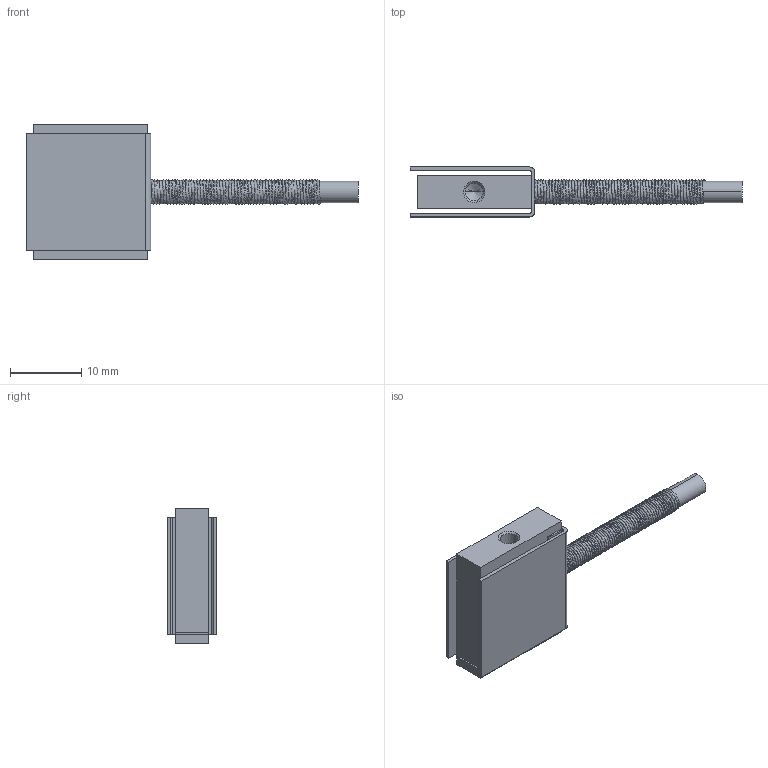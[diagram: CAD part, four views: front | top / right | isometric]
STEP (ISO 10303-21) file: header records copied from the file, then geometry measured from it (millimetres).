
FILE_DESCRIPTION (( 'STEP AP203' ), '1' );
FILE_NAME ('BMF200-10~45N.STEP', '2025-02-18T12:15:13', ( '' ), ( '' ), 'SwSTEP 2.0', 'SolidWorks 2024', '' );
FILE_SCHEMA (( 'CONFIG_CONTROL_DESIGN' ));
Length unit declared in the file: millimetre
Products named in the file (5): 3; BMF200-10~45N; 1; 4; 2
Assembly tree (4 placements, depth 2):
  BMF200-10~45N
    1
    2
    3
    4
Bounding box: 46.53 x 7 x 19 mm (x, y, z)
Volume: 1848.9 mm3; surface area: 3686.3 mm2
Topology: 5 solids, 5 shells, 74 faces, 182 edges, 115 vertices
Faces by surface type: plane 46, cylinder 16, cone 10, bspline 2
Entity records: 25215 total; most frequent: CARTESIAN_POINT 22960, DIRECTION 364, ORIENTED_EDGE 352, EDGE_CURVE 176, LINE 134, VECTOR 134, VERTEX_POINT 115, AXIS2_PLACEMENT_3D 115
